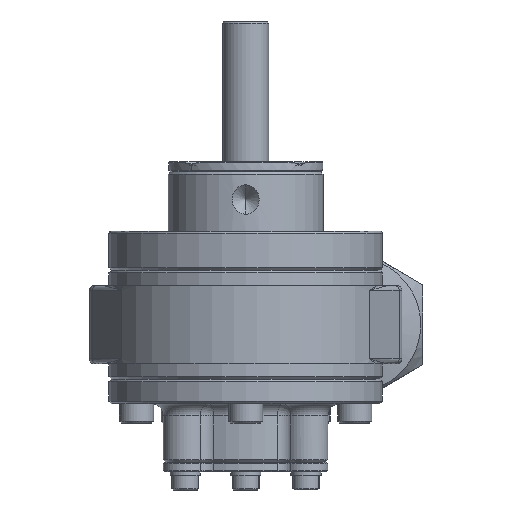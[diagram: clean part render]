
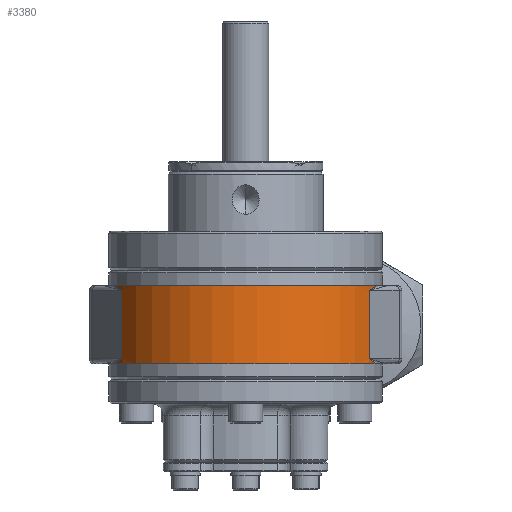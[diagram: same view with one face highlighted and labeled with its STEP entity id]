
A CAD part, front view. The second image highlights one B-rep face of the part: STEP entity #3380.
In plain terms, the highlighted cylindrical face has radius 28.5 mm (diameter 57 mm), a partial arc.
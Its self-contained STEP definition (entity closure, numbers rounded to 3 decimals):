
#428 = ORIENTED_EDGE ( 'NONE', *, *, #39519, .T. ) ;
#547 = CARTESIAN_POINT ( 'NONE',  ( -25.383, -12.96, -7. ) ) ;
#2655 = CARTESIAN_POINT ( 'NONE',  ( -26.713, -9.954, 7.867 ) ) ;
#2956 = CYLINDRICAL_SURFACE ( 'NONE', #26867, 28.5 ) ;
#3380 = ADVANCED_FACE ( 'NONE', ( #38633 ), #2956, .T. ) ;
#3548 = CARTESIAN_POINT ( 'NONE',  ( 25.682, -12.374, 7.177 ) ) ;
#3827 = CARTESIAN_POINT ( 'NONE',  ( -26.929, -9.331, 8.025 ) ) ;
#5086 = AXIS2_PLACEMENT_3D ( 'NONE', #6411, #37781, #20022 ) ;
#5151 = CARTESIAN_POINT ( 'NONE',  ( 0., 0., -8.025 ) ) ;
#6001 = ORIENTED_EDGE ( 'NONE', *, *, #30314, .F. ) ;
#6411 = CARTESIAN_POINT ( 'NONE',  ( 0., 0., 8.025 ) ) ;
#7157 = CARTESIAN_POINT ( 'NONE',  ( -26.477, -10.567, 7.7 ) ) ;
#7279 = CARTESIAN_POINT ( 'NONE',  ( 26.929, -9.331, -8.025 ) ) ;
#7951 = CARTESIAN_POINT ( 'NONE',  ( -25.532, -12.668, 7.088 ) ) ;
#9532 = CARTESIAN_POINT ( 'NONE',  ( -26.929, -9.331, -8.025 ) ) ;
#10265 = VECTOR ( 'NONE', #25896, 1000. ) ;
#10619 = ORIENTED_EDGE ( 'NONE', *, *, #29398, .F. ) ;
#10975 = VERTEX_POINT ( 'NONE', #51113 ) ;
#11782 = CARTESIAN_POINT ( 'NONE',  ( 26.713, -9.954, 7.867 ) ) ;
#11838 = DIRECTION ( 'NONE',  ( 0., 0., -1. ) ) ;
#14056 = CARTESIAN_POINT ( 'NONE',  ( 26.929, -9.331, 8.025 ) ) ;
#15626 = VECTOR ( 'NONE', #37821, 1000. ) ;
#16152 = CARTESIAN_POINT ( 'NONE',  ( 25.677, -12.371, -7.177 ) ) ;
#16354 = VERTEX_POINT ( 'NONE', #32832 ) ;
#19137 = CARTESIAN_POINT ( 'NONE',  ( 25.383, -12.96, -7. ) ) ;
#19441 = LINE ( 'NONE', #56909, #10265 ) ;
#20022 = DIRECTION ( 'NONE',  ( 1., 0., 0. ) ) ;
#20698 = CARTESIAN_POINT ( 'NONE',  ( 26.09, -11.475, -7.441 ) ) ;
#21280 = CARTESIAN_POINT ( 'NONE',  ( 25.961, -11.777, 7.355 ) ) ;
#21284 = CARTESIAN_POINT ( 'NONE',  ( 25.532, -12.668, -7.088 ) ) ;
#22520 = CIRCLE ( 'NONE', #5086, 28.5 ) ;
#22528 = ORIENTED_EDGE ( 'NONE', *, *, #42771, .T. ) ;
#23114 = CARTESIAN_POINT ( 'NONE',  ( -25.682, -12.374, -7.177 ) ) ;
#23260 = EDGE_CURVE ( 'NONE', #10975, #48858, #19441, .T. ) ;
#25661 = CARTESIAN_POINT ( 'NONE',  ( -25.956, -11.775, 7.354 ) ) ;
#25896 = DIRECTION ( 'NONE',  ( 0., 0., -1. ) ) ;
#26209 = CARTESIAN_POINT ( 'NONE',  ( -25.677, -12.371, 7.177 ) ) ;
#26867 = AXIS2_PLACEMENT_3D ( 'NONE', #56252, #11838, #34432 ) ;
#27385 = CARTESIAN_POINT ( 'NONE',  ( 26.929, -9.331, -8.025 ) ) ;
#29398 = EDGE_CURVE ( 'NONE', #36157, #34169, #22520, .T. ) ;
#30314 = EDGE_CURVE ( 'NONE', #58039, #16354, #39058, .T. ) ;
#31042 = CARTESIAN_POINT ( 'NONE',  ( 25.383, -12.96, 7. ) ) ;
#31061 = LINE ( 'NONE', #33744, #15626 ) ;
#31711 = B_SPLINE_CURVE_WITH_KNOTS ( 'NONE', 3,
 ( #547, #23114, #54303, #50034, #36765, #9532 ),
 .UNSPECIFIED., .F., .F.,
 ( 4, 2, 4 ),
 ( 0., 0.002, 0.004 ),
 .UNSPECIFIED. ) ;
#32141 = EDGE_CURVE ( 'NONE', #46217, #52180, #31061, .T. ) ;
#32177 = DIRECTION ( 'NONE',  ( -1., 0., 0. ) ) ;
#32832 = CARTESIAN_POINT ( 'NONE',  ( -26.929, -9.331, -8.025 ) ) ;
#33562 = ORIENTED_EDGE ( 'NONE', *, *, #45686, .T. ) ;
#33744 = CARTESIAN_POINT ( 'NONE',  ( 25.383, -12.96, 8. ) ) ;
#33934 = ORIENTED_EDGE ( 'NONE', *, *, #52338, .T. ) ;
#34169 = VERTEX_POINT ( 'NONE', #14056 ) ;
#34376 = CARTESIAN_POINT ( 'NONE',  ( 26.477, -10.567, 7.7 ) ) ;
#34432 = DIRECTION ( 'NONE',  ( -1., 0., 0. ) ) ;
#34847 = CARTESIAN_POINT ( 'NONE',  ( -25.383, -12.96, 7. ) ) ;
#35577 = AXIS2_PLACEMENT_3D ( 'NONE', #5151, #45477, #32177 ) ;
#35629 = ORIENTED_EDGE ( 'NONE', *, *, #32141, .F. ) ;
#36157 = VERTEX_POINT ( 'NONE', #3827 ) ;
#36505 = CARTESIAN_POINT ( 'NONE',  ( -25.383, -12.96, -7. ) ) ;
#36765 = CARTESIAN_POINT ( 'NONE',  ( -26.713, -9.954, -7.867 ) ) ;
#37694 = ORIENTED_EDGE ( 'NONE', *, *, #23260, .T. ) ;
#37781 = DIRECTION ( 'NONE',  ( 0., 0., 1. ) ) ;
#37821 = DIRECTION ( 'NONE',  ( 0., 0., -1. ) ) ;
#38148 = CARTESIAN_POINT ( 'NONE',  ( -26.929, -9.331, 8.025 ) ) ;
#38633 = FACE_OUTER_BOUND ( 'NONE', #50402, .T. ) ;
#38648 = CARTESIAN_POINT ( 'NONE',  ( 26.713, -9.954, -7.867 ) ) ;
#38859 = CARTESIAN_POINT ( 'NONE',  ( 25.956, -11.775, -7.354 ) ) ;
#39040 = CARTESIAN_POINT ( 'NONE',  ( 26.929, -9.331, 8.025 ) ) ;
#39058 = CIRCLE ( 'NONE', #35577, 28.5 ) ;
#39519 = EDGE_CURVE ( 'NONE', #36157, #10975, #53360, .T. ) ;
#40323 = B_SPLINE_CURVE_WITH_KNOTS ( 'NONE', 3,
 ( #48182, #3548, #21280, #34376, #11782, #39040 ),
 .UNSPECIFIED., .F., .F.,
 ( 4, 2, 4 ),
 ( 0., 0.002, 0.004 ),
 .UNSPECIFIED. ) ;
#42771 = EDGE_CURVE ( 'NONE', #46217, #34169, #40323, .T. ) ;
#42965 = CARTESIAN_POINT ( 'NONE',  ( 26.477, -10.567, -7.7 ) ) ;
#45477 = DIRECTION ( 'NONE',  ( 0., 0., -1. ) ) ;
#45686 = EDGE_CURVE ( 'NONE', #48858, #16354, #31711, .T. ) ;
#46217 = VERTEX_POINT ( 'NONE', #31042 ) ;
#48182 = CARTESIAN_POINT ( 'NONE',  ( 25.383, -12.96, 7. ) ) ;
#48858 = VERTEX_POINT ( 'NONE', #36505 ) ;
#50034 = CARTESIAN_POINT ( 'NONE',  ( -26.477, -10.567, -7.7 ) ) ;
#50402 = EDGE_LOOP ( 'NONE', ( #10619, #428, #37694, #33562, #6001, #33934, #35629, #22528 ) ) ;
#51113 = CARTESIAN_POINT ( 'NONE',  ( -25.383, -12.96, 7. ) ) ;
#51899 = CARTESIAN_POINT ( 'NONE',  ( 25.383, -12.96, -7. ) ) ;
#52180 = VERTEX_POINT ( 'NONE', #19137 ) ;
#52338 = EDGE_CURVE ( 'NONE', #58039, #52180, #57087, .T. ) ;
#52351 = CARTESIAN_POINT ( 'NONE',  ( -26.09, -11.475, 7.441 ) ) ;
#53360 = B_SPLINE_CURVE_WITH_KNOTS ( 'NONE', 3,
 ( #38148, #2655, #7157, #52351, #25661, #26209, #7951, #34847 ),
 .UNSPECIFIED., .F., .F.,
 ( 4, 2, 2, 4 ),
 ( 0.007, 0.009, 0.01, 0.011 ),
 .UNSPECIFIED. ) ;
#54303 = CARTESIAN_POINT ( 'NONE',  ( -25.961, -11.777, -7.355 ) ) ;
#56252 = CARTESIAN_POINT ( 'NONE',  ( 0., 0., 8. ) ) ;
#56909 = CARTESIAN_POINT ( 'NONE',  ( -25.383, -12.96, 8. ) ) ;
#57087 = B_SPLINE_CURVE_WITH_KNOTS ( 'NONE', 3,
 ( #7279, #38648, #42965, #20698, #38859, #16152, #21284, #51899 ),
 .UNSPECIFIED., .F., .F.,
 ( 4, 2, 2, 4 ),
 ( 0.007, 0.009, 0.01, 0.011 ),
 .UNSPECIFIED. ) ;
#58039 = VERTEX_POINT ( 'NONE', #27385 ) ;
